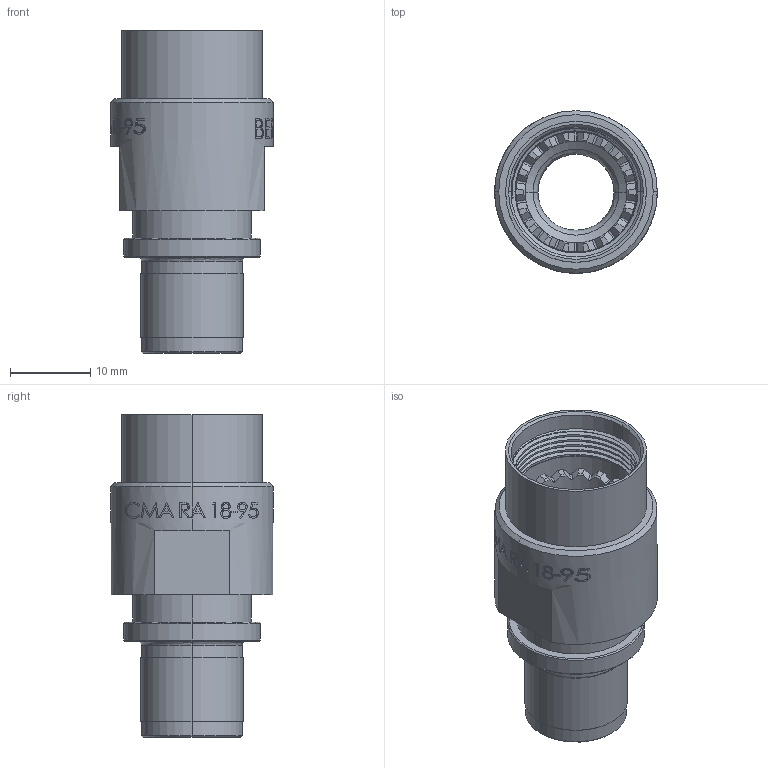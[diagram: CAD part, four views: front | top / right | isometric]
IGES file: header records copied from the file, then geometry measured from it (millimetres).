
Start section: SolidWorks IGES file using analytic representation for surfaces
Global section: file name: C:\Users\JGC\Desktop\CMA RA18-95.IGS; native system: SolidWorks 2017; preprocessor: SolidWorks 2017; author: jgc; date: 190128.095228; units: millimetre
Bounding box: 20.3 x 20.3 x 40.3 mm (x, y, z)
Volume: 4530.2 mm3; surface area: 4436 mm2
Topology: 1 solids, 1 shells, 407 faces, 1087 edges, 713 vertices
Faces by surface type: plane 204, revolution 129, bspline 74
